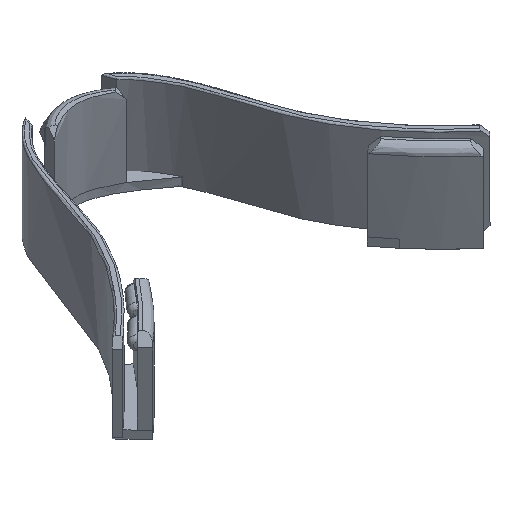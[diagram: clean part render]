
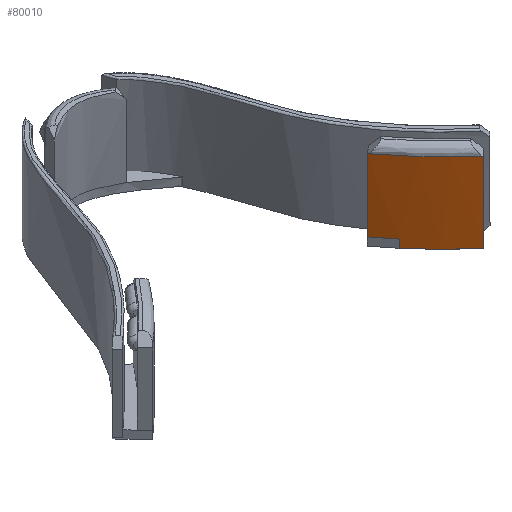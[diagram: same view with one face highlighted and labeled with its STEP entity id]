
A CAD part, isometric view. The second image highlights one B-rep face of the part: STEP entity #80010.
In plain terms, the highlighted free-form (B-spline) face has degree [2, 1] with [3, 2] control points.
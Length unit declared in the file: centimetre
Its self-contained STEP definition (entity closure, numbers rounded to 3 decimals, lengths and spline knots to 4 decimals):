
#17190 = CARTESIAN_POINT ('', (20.6411, 8.746, 0.));
#17200 = VERTEX_POINT ('', #17190);
#17280 = CARTESIAN_POINT ('', (15.397, 14.0188, 0.));
#17290 = VERTEX_POINT ('', #17280);
#17710 = CARTESIAN_POINT ('', (13.6484, 16.2435, 9.8844));
#17720 = VERTEX_POINT ('', #17710);
#18000 = CARTESIAN_POINT ('', (13.6484, 16.2435, 1.));
#18010 = VERTEX_POINT ('', #18000);
#18070 = CARTESIAN_POINT ('', (13.6484, 16.2435, 1.));
#18080 = CARTESIAN_POINT ('', (13.6484, 16.2435, 9.8844));
#18090 = (
   BOUNDED_CURVE ()
   B_SPLINE_CURVE (1, (#18070, #18080), .UNSPECIFIED., .F., .U.)
   B_SPLINE_CURVE_WITH_KNOTS ((2, 2), (0.0909, 0.8986), .UNSPECIFIED.)
   CURVE ()
   GEOMETRIC_REPRESENTATION_ITEM ()
   RATIONAL_B_SPLINE_CURVE ((1., 1.))
   REPRESENTATION_ITEM ('')
);
#18100 = EDGE_CURVE ('', #18010, #17720, #18090, .T.);
#35350 = CARTESIAN_POINT ('', (15.3969, 14.0189, 0.9998));
#35360 = VERTEX_POINT ('', #35350);
#35370 = CARTESIAN_POINT ('', (15.3968, 14.0189, 0.9999));
#35380 = CARTESIAN_POINT ('', (14.7906, 14.7412, 0.9999));
#35390 = CARTESIAN_POINT ('', (14.208, 15.4825, 0.9999));
#35400 = CARTESIAN_POINT ('', (13.6484, 16.2435, 1.));
#35410 = B_SPLINE_CURVE_WITH_KNOTS ('', 3, (#35370, #35380, #35390, #35400), .UNSPECIFIED., .F., .U., (4, 4), (7.4336, 10.2674), .UNSPECIFIED.);
#35420 = EDGE_CURVE ('', #35360, #18010, #35410, .T.);
#35460 = CARTESIAN_POINT ('', (15.3969, 14.0189, 0.9998));
#35470 = CARTESIAN_POINT ('', (15.3969, 14.0189, 0.6665));
#35480 = CARTESIAN_POINT ('', (15.397, 14.0188, 0.3333));
#35490 = CARTESIAN_POINT ('', (15.397, 14.0188, 0.));
#35500 = B_SPLINE_CURVE_WITH_KNOTS ('', 3, (#35460, #35470, #35480, #35490), .UNSPECIFIED., .F., .U., (4, 4), (0., 0.9998), .UNSPECIFIED.);
#35510 = EDGE_CURVE ('', #35360, #17290, #35500, .T.);
#35650 = CARTESIAN_POINT ('', (15.397, 14.0188, 0.));
#35660 = CARTESIAN_POINT ('', (17.7959, 11.1605, 0.));
#35670 = CARTESIAN_POINT ('', (20.6411, 8.746, 0.));
#35680 = (
   BOUNDED_CURVE ()
   B_SPLINE_CURVE (2, (#35650, #35660, #35670), .UNSPECIFIED., .F., .U.)
   B_SPLINE_CURVE_WITH_KNOTS ((3, 3), (1.2756, 2.), .UNSPECIFIED.)
   CURVE ()
   GEOMETRIC_REPRESENTATION_ITEM ()
   RATIONAL_B_SPLINE_CURVE ((0.997, 0.995, 1.))
   REPRESENTATION_ITEM ('')
);
#35690 = EDGE_CURVE ('', #17290, #17200, #35680, .T.);
#35810 = CARTESIAN_POINT ('', (20.6411, 8.746, 0.9997));
#35820 = VERTEX_POINT ('', #35810);
#35880 = CARTESIAN_POINT ('', (20.6411, 8.746, 0.));
#35890 = CARTESIAN_POINT ('', (20.6411, 8.746, 0.9997));
#35900 = B_SPLINE_CURVE_WITH_KNOTS ('', 1, (#35880, #35890), .UNSPECIFIED., .F., .U., (2, 2), (0., 0.0909), .UNSPECIFIED.);
#35910 = EDGE_CURVE ('', #17200, #35820, #35900, .T.);
#77610 = CARTESIAN_POINT ('', (13.7172, 16.1502, 10.));
#77620 = VERTEX_POINT ('', #77610);
#77630 = CARTESIAN_POINT ('', (13.7172, 16.1502, 10.));
#77640 = CARTESIAN_POINT ('', (13.6942, 16.1813, 9.9615));
#77650 = CARTESIAN_POINT ('', (13.6713, 16.2124, 9.923));
#77660 = CARTESIAN_POINT ('', (13.6484, 16.2435, 9.8844));
#77670 = B_SPLINE_CURVE_WITH_KNOTS ('', 3, (#77630, #77640, #77650, #77660), .UNSPECIFIED., .F., .U., (4, 4), (0., 0.1637), .UNSPECIFIED.);
#77680 = EDGE_CURVE ('', #77620, #17720, #77670, .T.);
#78200 = CARTESIAN_POINT ('', (20.5499, 8.8236, 10.));
#78210 = VERTEX_POINT ('', #78200);
#78690 = CARTESIAN_POINT ('', (13.7172, 16.1502, 10.));
#78700 = CARTESIAN_POINT ('', (16.7146, 12.0963, 10.));
#78710 = CARTESIAN_POINT ('', (20.5499, 8.8236, 10.));
#78720 = (
   BOUNDED_CURVE ()
   B_SPLINE_CURVE (2, (#78690, #78700, #78710), .UNSPECIFIED., .F., .U.)
   B_SPLINE_CURVE_WITH_KNOTS ((3, 3), (0.4659, 0.5341), .UNSPECIFIED.)
   CURVE ()
   GEOMETRIC_REPRESENTATION_ITEM ()
   RATIONAL_B_SPLINE_CURVE ((0.931, 0.925, 0.931))
   REPRESENTATION_ITEM ('')
);
#78730 = EDGE_CURVE ('', #77620, #78210, #78720, .T.);
#79550 = CARTESIAN_POINT ('', (20.6411, 8.746, 9.8806));
#79560 = VERTEX_POINT ('', #79550);
#79620 = CARTESIAN_POINT ('', (20.6411, 8.746, 0.9997));
#79630 = CARTESIAN_POINT ('', (20.6411, 8.746, 9.8806));
#79640 = B_SPLINE_CURVE_WITH_KNOTS ('', 1, (#79620, #79630), .UNSPECIFIED., .F., .U., (2, 2), (0.0909, 0.8982), .UNSPECIFIED.);
#79650 = EDGE_CURVE ('', #35820, #79560, #79640, .T.);
#79770 = CARTESIAN_POINT ('', (20.6411, 8.746, 9.8806));
#79780 = CARTESIAN_POINT ('', (20.6107, 8.7718, 9.9204));
#79790 = CARTESIAN_POINT ('', (20.5803, 8.7977, 9.9602));
#79800 = CARTESIAN_POINT ('', (20.5499, 8.8236, 10.));
#79810 = B_SPLINE_CURVE_WITH_KNOTS ('', 3, (#79770, #79780, #79790, #79800), .UNSPECIFIED., .F., .U., (4, 4), (0., 0.1692), .UNSPECIFIED.);
#79820 = EDGE_CURVE ('', #79560, #78210, #79810, .T.);
#79830 = ORIENTED_EDGE ('', *, *, #79820, .T.);
#79840 = ORIENTED_EDGE ('', *, *, #78730, .F.);
#79850 = ORIENTED_EDGE ('', *, *, #77680, .T.);
#79860 = ORIENTED_EDGE ('', *, *, #18100, .F.);
#79870 = ORIENTED_EDGE ('', *, *, #35420, .F.);
#79880 = ORIENTED_EDGE ('', *, *, #35510, .T.);
#79890 = ORIENTED_EDGE ('', *, *, #35690, .T.);
#79900 = ORIENTED_EDGE ('', *, *, #35910, .T.);
#79910 = ORIENTED_EDGE ('', *, *, #79650, .T.);
#79920 = EDGE_LOOP ('', (#79830, #79840, #79850, #79860, #79870, #79880, #79890, #79900, #79910));
#79930 = FACE_OUTER_BOUND ('', #79920, .T.);
#79940 = CARTESIAN_POINT ('', (13.6484, 16.2435, 0.));
#79950 = CARTESIAN_POINT ('', (13.6484, 16.2435, 11.));
#79960 = CARTESIAN_POINT ('', (16.7059, 12.0855, 0.));
#79970 = CARTESIAN_POINT ('', (16.7059, 12.0855, 11.));
#79980 = CARTESIAN_POINT ('', (20.6411, 8.746, 0.));
#79990 = CARTESIAN_POINT ('', (20.6411, 8.746, 11.));
#80000 = (
   BOUNDED_SURFACE ()
   B_SPLINE_SURFACE (2, 1, ((#79940, #79950), (#79960, #79970), (#79980, #79990)), .UNSPECIFIED., .F., .F., .U.)
   B_SPLINE_SURFACE_WITH_KNOTS ((3, 3), (2, 2), (1., 2.), (0., 1.), .UNSPECIFIED.)
   SURFACE ()
   GEOMETRIC_REPRESENTATION_ITEM ()
   RATIONAL_B_SPLINE_SURFACE (((1., 1.), (0.993, 0.993), (1., 1.)))
   REPRESENTATION_ITEM ('')
);
#80010 = ADVANCED_FACE ('', (#79930), #80000, .T.);
